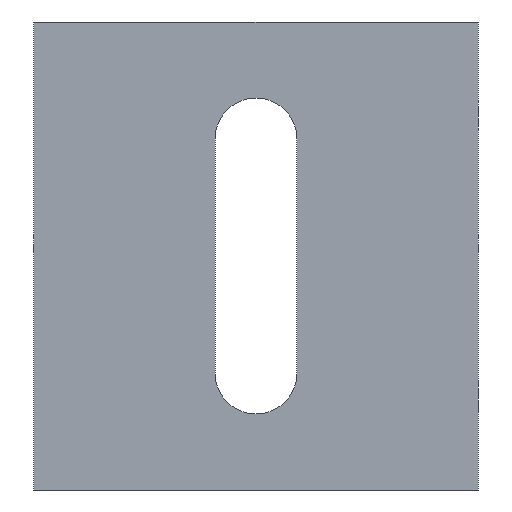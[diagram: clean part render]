
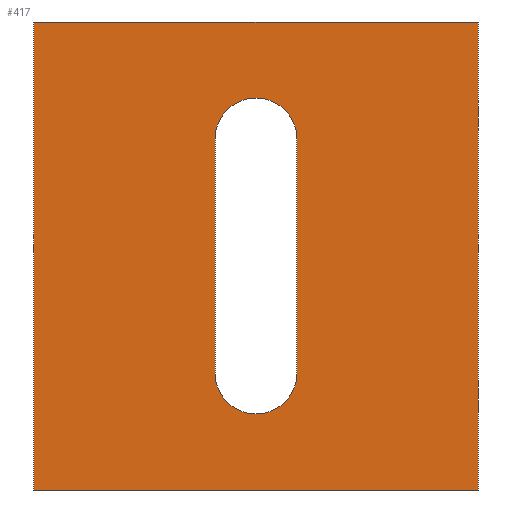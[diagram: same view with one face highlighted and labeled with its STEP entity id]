
A CAD part, front view. The second image highlights one B-rep face of the part: STEP entity #417.
In plain terms, the highlighted planar face has unit normal (0, -1, 0).
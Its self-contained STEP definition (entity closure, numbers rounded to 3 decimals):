
#21=LINE('',#559,#41);
#24=LINE('',#573,#44);
#32=LINE('',#595,#52);
#35=LINE('',#604,#55);
#38=LINE('',#609,#58);
#39=LINE('',#611,#59);
#41=VECTOR('',#481,1000.);
#44=VECTOR('',#496,1000.);
#52=VECTOR('',#512,1000.);
#55=VECTOR('',#523,1000.);
#58=VECTOR('',#530,1000.);
#59=VECTOR('',#533,1000.);
#122=ORIENTED_EDGE('',*,*,#164,.F.);
#123=ORIENTED_EDGE('',*,*,#141,.F.);
#124=ORIENTED_EDGE('',*,*,#165,.F.);
#125=ORIENTED_EDGE('',*,*,#146,.F.);
#126=ORIENTED_EDGE('',*,*,#159,.T.);
#127=ORIENTED_EDGE('',*,*,#161,.T.);
#128=ORIENTED_EDGE('',*,*,#152,.T.);
#129=ORIENTED_EDGE('',*,*,#156,.T.);
#141=EDGE_CURVE('',#174,#175,#21,.T.);
#146=EDGE_CURVE('',#180,#181,#24,.T.);
#152=EDGE_CURVE('',#187,#186,#201,.T.);
#156=EDGE_CURVE('',#186,#189,#32,.T.);
#159=EDGE_CURVE('',#189,#191,#203,.T.);
#161=EDGE_CURVE('',#191,#187,#35,.T.);
#164=EDGE_CURVE('',#175,#180,#38,.T.);
#165=EDGE_CURVE('',#181,#174,#39,.T.);
#174=VERTEX_POINT('',#558);
#175=VERTEX_POINT('',#560);
#180=VERTEX_POINT('',#574);
#181=VERTEX_POINT('',#575);
#186=VERTEX_POINT('',#586);
#187=VERTEX_POINT('',#588);
#189=VERTEX_POINT('',#594);
#191=VERTEX_POINT('',#600);
#201=CIRCLE('',#444,3.5);
#203=CIRCLE('',#448,3.5);
#229=EDGE_LOOP('',(#122,#123,#124,#125));
#230=EDGE_LOOP('',(#126,#127,#128,#129));
#259=FACE_BOUND('',#229,.T.);
#260=FACE_BOUND('',#230,.T.);
#270=PLANE('',#452);
#417=ADVANCED_FACE('',(#259,#260),#270,.T.);
#444=AXIS2_PLACEMENT_3D('',#587,#505,#506);
#448=AXIS2_PLACEMENT_3D('',#601,#518,#519);
#452=AXIS2_PLACEMENT_3D('',#610,#531,#532);
#481=DIRECTION('',(0.,0.,-1.));
#496=DIRECTION('',(0.,0.,1.));
#505=DIRECTION('',(0.,1.,0.));
#506=DIRECTION('',(0.,0.,1.));
#512=DIRECTION('',(0.,0.,-1.));
#518=DIRECTION('',(0.,1.,0.));
#519=DIRECTION('',(0.,0.,1.));
#523=DIRECTION('',(0.,0.,1.));
#530=DIRECTION('',(-1.,0.,0.));
#531=DIRECTION('',(0.,-1.,0.));
#532=DIRECTION('',(0.,0.,-1.));
#533=DIRECTION('',(1.,0.,0.));
#558=CARTESIAN_POINT('',(19.,0.,20.));
#559=CARTESIAN_POINT('',(19.,0.,20.));
#560=CARTESIAN_POINT('',(19.,0.,-20.));
#573=CARTESIAN_POINT('',(-19.,0.,20.));
#574=CARTESIAN_POINT('',(-19.,0.,-20.));
#575=CARTESIAN_POINT('',(-19.,0.,20.));
#586=CARTESIAN_POINT('',(3.5,0.,10.));
#587=CARTESIAN_POINT('',(0.,0.,10.));
#588=CARTESIAN_POINT('',(-3.5,0.,10.));
#594=CARTESIAN_POINT('',(3.5,0.,-10.));
#595=CARTESIAN_POINT('',(3.5,0.,-10.));
#600=CARTESIAN_POINT('',(-3.5,0.,-10.));
#601=CARTESIAN_POINT('',(0.,0.,-10.));
#604=CARTESIAN_POINT('',(-3.5,0.,-10.));
#609=CARTESIAN_POINT('',(-19.,0.,-20.));
#610=CARTESIAN_POINT('',(0.,0.,0.));
#611=CARTESIAN_POINT('',(-19.,0.,20.));
